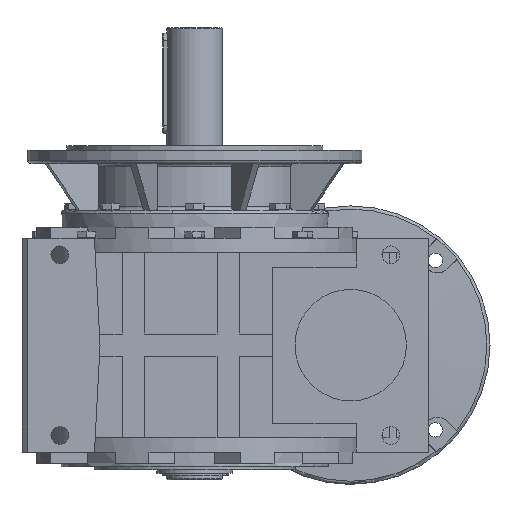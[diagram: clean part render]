
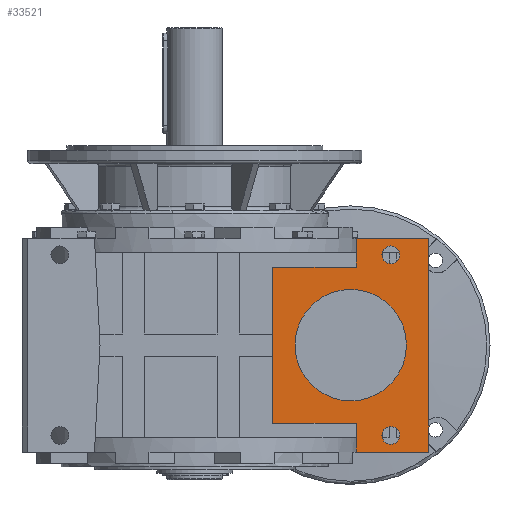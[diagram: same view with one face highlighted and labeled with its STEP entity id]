
A CAD part, left-side view. The second image highlights one B-rep face of the part: STEP entity #33521.
In plain terms, the highlighted planar face has unit normal (-1, 0, 0).
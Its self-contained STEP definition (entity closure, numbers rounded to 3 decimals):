
#272 = VECTOR ( 'NONE', #32353, 1000. ) ;
#566 = LINE ( 'NONE', #1823, #272 ) ;
#580 = VERTEX_POINT ( 'NONE', #34104 ) ;
#661 = CARTESIAN_POINT ( 'NONE',  ( -152.5, -210., 70. ) ) ;
#1445 = EDGE_CURVE ( 'NONE', #17994, #17994, #17146, .T. ) ;
#1688 = EDGE_CURVE ( 'NONE', #4928, #27186, #27784, .T. ) ;
#1821 = DIRECTION ( 'NONE',  ( -1., 0., 0. ) ) ;
#1823 = CARTESIAN_POINT ( 'NONE',  ( -152.5, -210., -96. ) ) ;
#2331 = CIRCLE ( 'NONE', #25896, 8. ) ;
#3517 = CARTESIAN_POINT ( 'NONE',  ( -152.5, -210., -70. ) ) ;
#4410 = EDGE_CURVE ( 'NONE', #21321, #580, #29695, .T. ) ;
#4769 = ORIENTED_EDGE ( 'NONE', *, *, #10116, .F. ) ;
#4928 = VERTEX_POINT ( 'NONE', #22178 ) ;
#5860 = AXIS2_PLACEMENT_3D ( 'NONE', #26691, #8549, #29708 ) ;
#6375 = ORIENTED_EDGE ( 'NONE', *, *, #1688, .F. ) ;
#6407 = DIRECTION ( 'NONE',  ( 0., 0., 1. ) ) ;
#6528 = ORIENTED_EDGE ( 'NONE', *, *, #7642, .T. ) ;
#6787 = EDGE_LOOP ( 'NONE', ( #26969, #17322, #19678, #4769, #6375, #17274, #6528, #13101 ) ) ;
#7642 = EDGE_CURVE ( 'NONE', #11200, #21321, #566, .T. ) ;
#8075 = EDGE_CURVE ( 'NONE', #11200, #4928, #36272, .T. ) ;
#8218 = VERTEX_POINT ( 'NONE', #26094 ) ;
#8413 = AXIS2_PLACEMENT_3D ( 'NONE', #24611, #24737, #6407 ) ;
#8549 = DIRECTION ( 'NONE',  ( -1., 0., 0. ) ) ;
#8596 = VECTOR ( 'NONE', #23869, 1000. ) ;
#8672 = LINE ( 'NONE', #11660, #8596 ) ;
#10116 = EDGE_CURVE ( 'NONE', #27186, #8218, #21861, .T. ) ;
#10129 = DIRECTION ( 'NONE',  ( 0., 1., 0. ) ) ;
#10160 = FACE_OUTER_BOUND ( 'NONE', #6787, .T. ) ;
#10238 = FACE_BOUND ( 'NONE', #19190, .T. ) ;
#10280 = FACE_BOUND ( 'NONE', #16411, .T. ) ;
#10328 = FACE_BOUND ( 'NONE', #33300, .T. ) ;
#10341 = CARTESIAN_POINT ( 'NONE',  ( -152.5, -145., 70. ) ) ;
#10482 = EDGE_CURVE ( 'NONE', #28167, #580, #20237, .T. ) ;
#10503 = DIRECTION ( 'NONE',  ( 0., 1., 0. ) ) ;
#11200 = VERTEX_POINT ( 'NONE', #31050 ) ;
#11660 = CARTESIAN_POINT ( 'NONE',  ( -152.5, -70., -70. ) ) ;
#12092 = EDGE_CURVE ( 'NONE', #8218, #22736, #8672, .T. ) ;
#13101 = ORIENTED_EDGE ( 'NONE', *, *, #4410, .T. ) ;
#16088 = EDGE_CURVE ( 'NONE', #28167, #22736, #21164, .T. ) ;
#16410 = AXIS2_PLACEMENT_3D ( 'NONE', #20408, #1821, #23450 ) ;
#16411 = EDGE_LOOP ( 'NONE', ( #33588 ) ) ;
#16470 = CARTESIAN_POINT ( 'NONE',  ( -152.5, -70., 70. ) ) ;
#17146 = CIRCLE ( 'NONE', #5860, 8. ) ;
#17274 = ORIENTED_EDGE ( 'NONE', *, *, #8075, .F. ) ;
#17322 = ORIENTED_EDGE ( 'NONE', *, *, #16088, .T. ) ;
#17994 = VERTEX_POINT ( 'NONE', #35989 ) ;
#18492 = CARTESIAN_POINT ( 'NONE',  ( -152.5, -176., 81. ) ) ;
#18790 = CARTESIAN_POINT ( 'NONE',  ( -152.5, -145., -96. ) ) ;
#19148 = CARTESIAN_POINT ( 'NONE',  ( -152.5, -210., 96. ) ) ;
#19190 = EDGE_LOOP ( 'NONE', ( #20734 ) ) ;
#19678 = ORIENTED_EDGE ( 'NONE', *, *, #12092, .F. ) ;
#20017 = VECTOR ( 'NONE', #24404, 1000. ) ;
#20145 = EDGE_CURVE ( 'NONE', #26022, #26022, #26616, .T. ) ;
#20237 = LINE ( 'NONE', #36080, #20017 ) ;
#20386 = VECTOR ( 'NONE', #25387, 1000. ) ;
#20408 = CARTESIAN_POINT ( 'NONE',  ( -152.5, -140., 0. ) ) ;
#20734 = ORIENTED_EDGE ( 'NONE', *, *, #20145, .F. ) ;
#21164 = LINE ( 'NONE', #661, #20386 ) ;
#21321 = VERTEX_POINT ( 'NONE', #28696 ) ;
#21547 = DIRECTION ( 'NONE',  ( 0., 1., 0. ) ) ;
#21669 = PLANE ( 'NONE',  #8413 ) ;
#21773 = VECTOR ( 'NONE', #21997, 1000. ) ;
#21850 = DIRECTION ( 'NONE',  ( 0., 0., 1. ) ) ;
#21861 = LINE ( 'NONE', #3517, #21773 ) ;
#21997 = DIRECTION ( 'NONE',  ( 0., 1., 0. ) ) ;
#22178 = CARTESIAN_POINT ( 'NONE',  ( -152.5, -145., -96. ) ) ;
#22736 = VERTEX_POINT ( 'NONE', #16470 ) ;
#23450 = DIRECTION ( 'NONE',  ( 0., 0., -1. ) ) ;
#23869 = DIRECTION ( 'NONE',  ( 0., 0., 1. ) ) ;
#24150 = EDGE_CURVE ( 'NONE', #26466, #26466, #2331, .T. ) ;
#24404 = DIRECTION ( 'NONE',  ( 0., 0., 1. ) ) ;
#24611 = CARTESIAN_POINT ( 'NONE',  ( -152.5, -210., -96. ) ) ;
#24737 = DIRECTION ( 'NONE',  ( 1., 0., 0. ) ) ;
#25387 = DIRECTION ( 'NONE',  ( 0., 1., 0. ) ) ;
#25813 = VECTOR ( 'NONE', #10129, 1000. ) ;
#25896 = AXIS2_PLACEMENT_3D ( 'NONE', #18492, #39271, #21547 ) ;
#26022 = VERTEX_POINT ( 'NONE', #31885 ) ;
#26094 = CARTESIAN_POINT ( 'NONE',  ( -152.5, -70., -70. ) ) ;
#26466 = VERTEX_POINT ( 'NONE', #32255 ) ;
#26616 = CIRCLE ( 'NONE', #16410, 50. ) ;
#26691 = CARTESIAN_POINT ( 'NONE',  ( -152.5, -176., -81. ) ) ;
#26969 = ORIENTED_EDGE ( 'NONE', *, *, #10482, .F. ) ;
#27186 = VERTEX_POINT ( 'NONE', #31670 ) ;
#27784 = LINE ( 'NONE', #18790, #38693 ) ;
#28167 = VERTEX_POINT ( 'NONE', #10341 ) ;
#28559 = CARTESIAN_POINT ( 'NONE',  ( -152.5, -210., -96. ) ) ;
#28696 = CARTESIAN_POINT ( 'NONE',  ( -152.5, -210., 96. ) ) ;
#29695 = LINE ( 'NONE', #19148, #25813 ) ;
#29708 = DIRECTION ( 'NONE',  ( 0., 1., 0. ) ) ;
#31050 = CARTESIAN_POINT ( 'NONE',  ( -152.5, -210., -96. ) ) ;
#31670 = CARTESIAN_POINT ( 'NONE',  ( -152.5, -145., -70. ) ) ;
#31885 = CARTESIAN_POINT ( 'NONE',  ( -152.5, -140., -50. ) ) ;
#32255 = CARTESIAN_POINT ( 'NONE',  ( -152.5, -168., 81. ) ) ;
#32353 = DIRECTION ( 'NONE',  ( 0., 0., 1. ) ) ;
#33300 = EDGE_LOOP ( 'NONE', ( #39122 ) ) ;
#33521 = ADVANCED_FACE ( 'NONE', ( #10328, #10280, #10238, #10160 ), #21669, .F. ) ;
#33588 = ORIENTED_EDGE ( 'NONE', *, *, #24150, .F. ) ;
#34104 = CARTESIAN_POINT ( 'NONE',  ( -152.5, -145., 96. ) ) ;
#35989 = CARTESIAN_POINT ( 'NONE',  ( -152.5, -168., -81. ) ) ;
#36080 = CARTESIAN_POINT ( 'NONE',  ( -152.5, -145., -96. ) ) ;
#36272 = LINE ( 'NONE', #28559, #36419 ) ;
#36419 = VECTOR ( 'NONE', #10503, 1000. ) ;
#38693 = VECTOR ( 'NONE', #21850, 1000. ) ;
#39122 = ORIENTED_EDGE ( 'NONE', *, *, #1445, .F. ) ;
#39271 = DIRECTION ( 'NONE',  ( -1., 0., 0. ) ) ;
